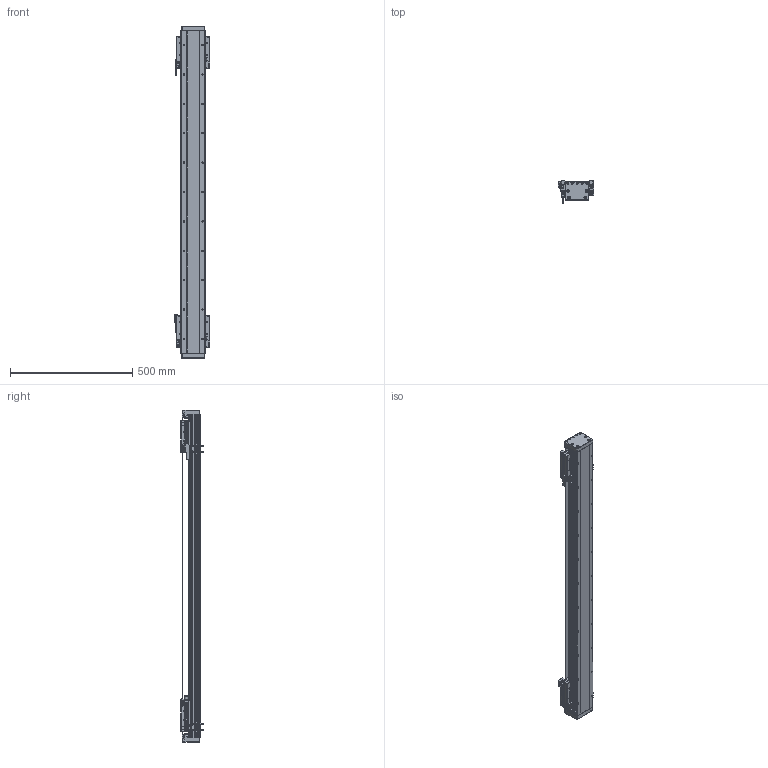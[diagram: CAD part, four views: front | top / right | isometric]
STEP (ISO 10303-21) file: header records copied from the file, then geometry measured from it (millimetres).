
FILE_DESCRIPTION (( 'STEP AP203' ), '1' );
FILE_NAME ('DA-B95-2-B15-T980-C010-0.2 直线电机.STEP', '2023-05-06T06:28:23', ( '微软用户' ), ( '微软中国' ), 'SwSTEP 2.0', 'SolidWorks 2019', '' );
FILE_SCHEMA (( 'CONFIG_CONTROL_DESIGN' ));
Length unit declared in the file: millimetre
Products named in the file (34): 66245-BU95-V-00 珨极趙賑雄怢啣; 复件 DKW-GYP-ZJ-00 中间光电感应片^DA-A95-B15-T-C010-0.2-N 直线电机; 复件 DKW-HXJ-JY-00 缓冲橡胶^DA-A95-B15-T-C010-0.2-N 直线电机; PM-T45 光电开关^DA-A95-B15-T-C010-0.2-N 直线电机; 葩璃 BKMA01-W060-TRL^DA-A95-B15-T-C010-0.2-N 眻盄萇儂; IU-BU95-L-00 菁釱_L1320; 复件 DA95-HK-GT-00 滑块钢轨^66245-BU95-V-00 一体化滑动台板; IU-BU95-L 菁釱絳寢; 复件 66245-BU95-HT-V-01 滑动台板^66245-BU95-V-00 一体化滑动台板; 葩璃 BKM015-W060-C1-TP-DA-0.2^DA-A95-B15-T-C010-0.2-N 眻盄萇儂; 66245-BU95-V 幗紩賑怢; 复件 复件 18252-0001-002-00 钢带垫块^DA-A95-B15-T-C010-0.2-N 直线电机; 复件 复件 18252-0001-003-00 钢带拉块^DA-A95-B15-T-C010-0.2-N 直线电机; 葩璃 DA95-B15-DP-A-00 菜えA^66245-BU95-V 幗紩賑怢; 复件 DA95-DB-00  挡板^66245-BU95-V 滚珠滑台; 葩璃 DA95-B15-DP--B-00 菜えB^66245-BU95-V 幗紩賑怢; DA-A95-GYP-00 光电感应片^DA-A95-B15-T-C010-0.2-N 直线电机; 复件 六角薄螺母 M3^DA-A95-B15-T-C010-0.2-N 直线电机_GB_FASTENER_NUT_STNAB M3-C; 复件 DKW-KGZ-ZJ-00 中间光电开关支架^DA-A95-B15-T-C010-0.2-N 直线电机; 复件 DA95-DK-00 挡块^66245-BU95-V 滚珠滑台; LMDK-2-R001-V5-L02-C1-F00，0.2M 读数头^DA-A95-B15-T-C010-0.2-N 直线电机_DMA-010-0.2; B15 XD-U-02L ｴﾅﾕ､ｳﾟ^DA-A95-B15-T-C010-0.2-N ﾖｱﾏﾟｵ扈銈XD-U-02L; DA95-HXJ-00 缓冲橡胶^DA-A95-B15-T-C010-0.2-N 直线电机; 复件 复件 18252-0001-004-00 钢带端盖^DA-A95-B15-T-C010-0.2-N 直线电机; 复件 DA95-B15-YB-B-00 压板B^66245-BU95-V 滚珠滑台; 复件 DA95-MFP-01 密封片^66245-BU95-V 滚珠滑台; 葩璃 DA95-GT-T-00^IU-BU95-L 菁釱絳寢_DA95; DA-B95-2-B15-T980-C010-0.2 眻盄萇儂; 复件 纯铜油杯 6x6mm^66245-BU95-V 滚珠滑台; 复件 DA95-B15-YB-A-00 压板A^66245-BU95-V 滚珠滑台; 葩璃 PM-Y45^DA-A95-B15-T-C010-0.2-N 眻盄萇儂; 复件 DA95-B15 钢带盖板^DA-A95-B15-T-C010-0.2-N 直线电机
Assembly tree (80 placements, depth 4):
  DA-B95-2-B15-T980-C010-0.2 眻盄萇儂
    IU-BU95-L 菁釱絳寢
      IU-BU95-L-00 菁釱_L1320
      葩璃 DA95-GT-T-00^IU-BU95-L 菁釱絳寢_DA95  x2
    66245-BU95-V 幗紩賑怢
      66245-BU95-V-00 珨极趙賑雄怢啣
        复件 66245-BU95-HT-V-01 滑动台板^66245-BU95-V-00 一体化滑动台板
        复件 DA95-HK-GT-00 滑块钢轨^66245-BU95-V-00 一体化滑动台板  x2
      葩璃 DA95-B15-DP-A-00 菜えA^66245-BU95-V 幗紩賑怢
      复件 DA95-B15-YB-A-00 压板A^66245-BU95-V 滚珠滑台
      复件 DA95-B15-YB-B-00 压板B^66245-BU95-V 滚珠滑台
      复件 DA95-DB-00  挡板^66245-BU95-V 滚珠滑台  x4
      复件 DA95-DK-00 挡块^66245-BU95-V 滚珠滑台  x2
      复件 DA95-MFP-01 密封片^66245-BU95-V 滚珠滑台  x4
      复件 纯铜油杯 6x6mm^66245-BU95-V 滚珠滑台  x2
      葩璃 DA95-B15-DP--B-00 菜えB^66245-BU95-V 幗紩賑怢
    66245-BU95-V 幗紩賑怢
      66245-BU95-V-00 珨极趙賑雄怢啣
        复件 66245-BU95-HT-V-01 滑动台板^66245-BU95-V-00 一体化滑动台板
        复件 DA95-HK-GT-00 滑块钢轨^66245-BU95-V-00 一体化滑动台板  x2
      葩璃 DA95-B15-DP-A-00 菜えA^66245-BU95-V 幗紩賑怢
      复件 DA95-B15-YB-A-00 压板A^66245-BU95-V 滚珠滑台
      复件 DA95-B15-YB-B-00 压板B^66245-BU95-V 滚珠滑台
      复件 DA95-DB-00  挡板^66245-BU95-V 滚珠滑台  x4
      复件 DA95-DK-00 挡块^66245-BU95-V 滚珠滑台  x2
      复件 DA95-MFP-01 密封片^66245-BU95-V 滚珠滑台  x4
      复件 纯铜油杯 6x6mm^66245-BU95-V 滚珠滑台  x2
      葩璃 DA95-B15-DP--B-00 菜えB^66245-BU95-V 幗紩賑怢
    DA-A95-GYP-00 光电感应片^DA-A95-B15-T-C010-0.2-N 直线电机  x2
    LMDK-2-R001-V5-L02-C1-F00，0.2M 读数头^DA-A95-B15-T-C010-0.2-N 直线电机_DMA-010-0.2  x2
    复件 DKW-KGZ-ZJ-00 中间光电开关支架^DA-A95-B15-T-C010-0.2-N 直线电机
    葩璃 PM-Y45^DA-A95-B15-T-C010-0.2-N 眻盄萇儂
    复件 DKW-GYP-ZJ-00 中间光电感应片^DA-A95-B15-T-C010-0.2-N 直线电机
    葩璃 BKM015-W060-C1-TP-DA-0.2^DA-A95-B15-T-C010-0.2-N 眻盄萇儂  x2
    复件 DKW-HXJ-JY-00 缓冲橡胶^DA-A95-B15-T-C010-0.2-N 直线电机  x2
    PM-T45 光电开关^DA-A95-B15-T-C010-0.2-N 直线电机  x4
    B15 XD-U-02L ｴﾅﾕ､ｳﾟ^DA-A95-B15-T-C010-0.2-N ﾖｱﾏﾟｵ扈銈XD-U-02L
    复件 复件 18252-0001-003-00 钢带拉块^DA-A95-B15-T-C010-0.2-N 直线电机  x2
    复件 复件 18252-0001-002-00 钢带垫块^DA-A95-B15-T-C010-0.2-N 直线电机  x2
    复件 复件 18252-0001-004-00 钢带端盖^DA-A95-B15-T-C010-0.2-N 直线电机  x2
    复件 DA95-B15 钢带盖板^DA-A95-B15-T-C010-0.2-N 直线电机
    DA95-HXJ-00 缓冲橡胶^DA-A95-B15-T-C010-0.2-N 直线电机  x4
    葩璃 BKMA01-W060-TRL^DA-A95-B15-T-C010-0.2-N 眻盄萇儂
    复件 六角薄螺母 M3^DA-A95-B15-T-C010-0.2-N 直线电机_GB_FASTENER_NUT_STNAB M3-C  x6
Bounding box: 145.4 x 90.2 x 1356 mm (x, y, z)
Volume: 5010176.6 mm3; surface area: 1607052.8 mm2
Topology: 75 solids, 93 shells, 3684 faces, 9916 edges, 6223 vertices
Faces by surface type: cylinder 1757, plane 1395, cone 464, torus 64, sphere 4
Entity records: 76024 total; most frequent: CARTESIAN_POINT 17558, DIRECTION 11340, ORIENTED_EDGE 11190, EDGE_CURVE 5595, AXIS2_PLACEMENT_3D 4261, VERTEX_POINT 3625, VECTOR 2818, LINE 2818
